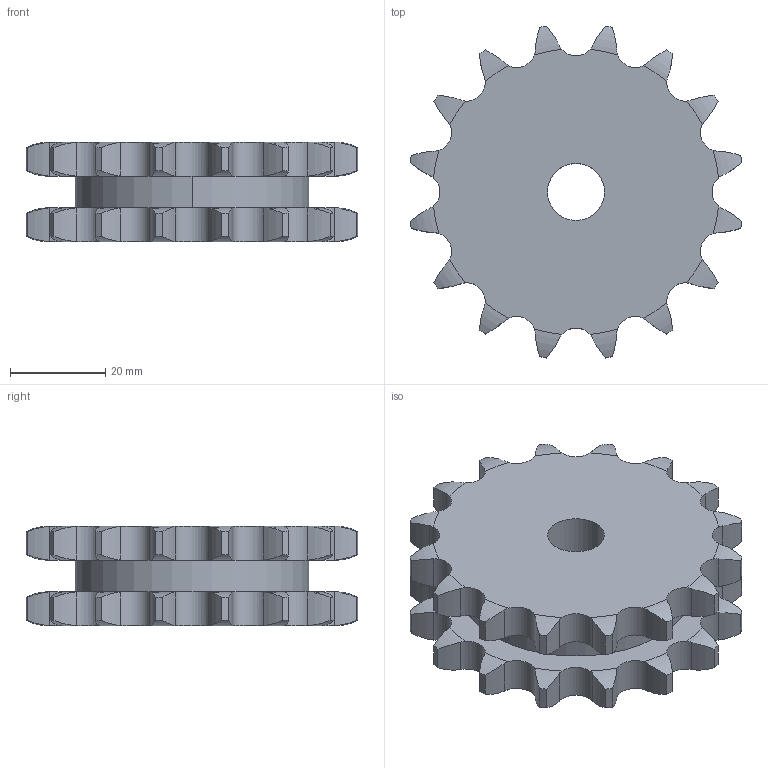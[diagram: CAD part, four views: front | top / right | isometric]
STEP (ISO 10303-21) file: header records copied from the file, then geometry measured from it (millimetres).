
FILE_DESCRIPTION((''),'2;1');
FILE_NAME('500-202-0016_PRT','2021-02-12T',('Brieden'),('Brieden'),'PRO/ENGINEER BY PARAMETRIC TECHNOLOGY CORPORATION, 2010160','PRO/ENGINEER BY PARAMETRIC TECHNOLOGY CORPORATION, 2010160','');
FILE_SCHEMA(('AUTOMOTIVE_DESIGN { 1 0 10303 214 1 1 1 1 }'));
Length unit declared in the file: millimetre
Products named in the file (1): 500-202-0016_PRT
Bounding box: 69.82 x 69.82 x 21 mm (x, y, z)
Volume: 54186.1 mm3; surface area: 14373.5 mm2
Topology: 1 solids, 1 shells, 200 faces, 588 edges, 392 vertices
Faces by surface type: cylinder 132, torus 64, plane 4
Entity records: 9331 total; most frequent: CARTESIAN_POINT 2476, ORIENTED_EDGE 1176, DIRECTION 932, PRESENTATION_STYLE_ASSIGNMENT 589, STYLED_ITEM 589, CURVE_STYLE 588, EDGE_CURVE 588, AXIS2_PLACEMENT_3D 400
